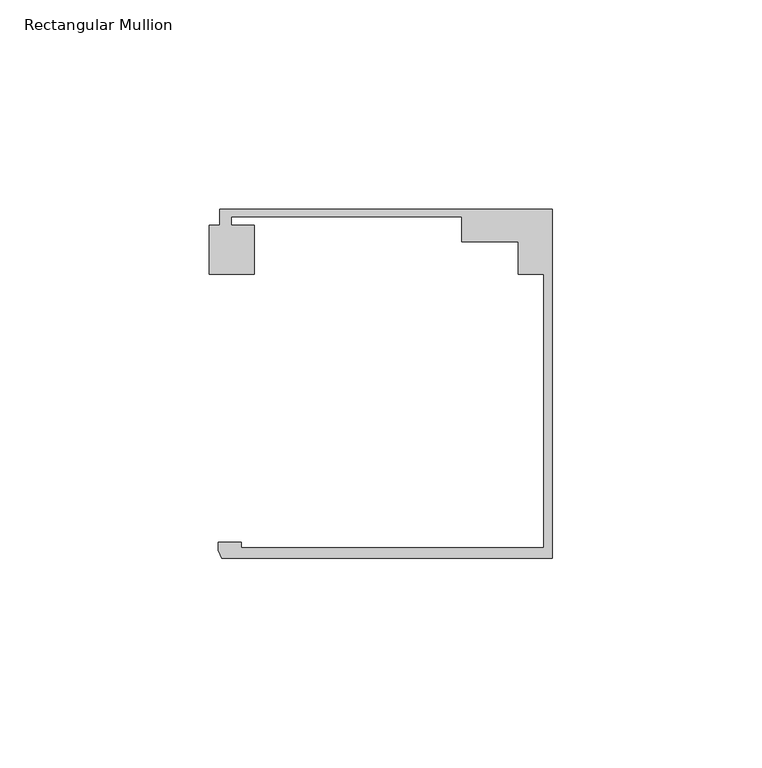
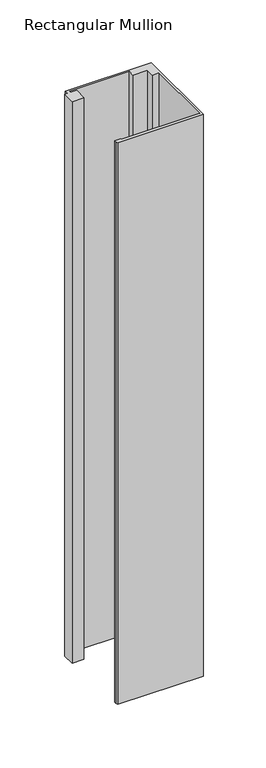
"""IFC4 building model written with IfcOpenShell, lengths in millimetres: member geometry, Rectangular Mullion : Danpal_Airpt_End-Mullion_B2."""

import ifcopenshell
import ifcopenshell.guid

model = None  # the IFC model being written
_history = None  # IfcOwnerHistory: only IFC2X3 demands one
_inside = {}  # id of a spatial element -> (the spatial element, [elements in it])
_under = {}  # id of a project, library or spatial element -> (it, [spatial elements below it])
_declared = {}  # id of a project -> (the project, [libraries it declares])
_typed = {}  # id of a type object -> (the type object, [elements of that type])
_made_of = {}  # id of a material, layer set ... -> (it, [elements and type objects made of it])


def new_model(schema):
    """Start an empty IFC model of exactly this schema.

    Asked for "IFC4X3", IfcOpenShell would pick the latest addendum, in which some entities
    have other attributes; the version numbers below select the first issue.
    IFC2X3 requires an IfcOwnerHistory on every rooted entity: one is made here for all.
    """
    global model, _history
    if schema == "IFC4X3":
        model = ifcopenshell.file(schema_version=(4, 3, 0, 0))
    else:
        model = ifcopenshell.file(schema=schema)
    _inside.clear()
    _under.clear()
    _declared.clear()
    _typed.clear()
    _made_of.clear()
    _history = None
    if model.schema == "IFC2X3":
        org = make("IfcOrganization", Name="unknown")
        user = make(
            "IfcPersonAndOrganization",
            ThePerson=make("IfcPerson", FamilyName="unknown"),
            TheOrganization=org,
        )
        app = make(
            "IfcApplication",
            ApplicationDeveloper=org,
            Version="unknown",
            ApplicationFullName="unknown",
            ApplicationIdentifier="unknown",
        )
        _history = make(
            "IfcOwnerHistory",
            OwningUser=user,
            OwningApplication=app,
            ChangeAction="ADDED",
            CreationDate=0,
        )
    return model


def make(cls, **values):
    """One entity of the class cls with the attributes given. An attribute that is None is left unset."""
    return model.create_entity(
        cls, **{name: value for name, value in values.items() if value is not None}
    )


def rooted(cls, **values):
    """An entity with a GlobalId (a new one), such as an element, a storey or a relation."""
    return make(cls, GlobalId=ifcopenshell.guid.new(), OwnerHistory=_history, **values)


def si_unit(unit_type, name, prefix=None):
    """IfcSIUnit, for example si_unit("LENGTHUNIT", "METRE", prefix="MILLI")."""
    return make("IfcSIUnit", UnitType=unit_type, Prefix=prefix, Name=name)


def assignment(units):
    """IfcUnitAssignment: the units of a project."""
    return None if units is None else make("IfcUnitAssignment", Units=units)


def point(xyz):
    """IfcCartesianPoint."""
    return None if xyz is None else make("IfcCartesianPoint", Coordinates=xyz)


def direction(xyz):
    """IfcDirection."""
    return None if xyz is None else make("IfcDirection", DirectionRatios=xyz)


def frame(location, z_axis=None, x_axis=None):
    """IfcAxis2Placement3D, a coordinate frame: its origin and axes. An axis left out is left unset."""
    return make(
        "IfcAxis2Placement3D",
        Location=point(location),
        Axis=direction(z_axis),
        RefDirection=direction(x_axis),
    )


def origin():
    """The frame at (0, 0, 0) with its axes left unset."""
    return frame((0.0, 0.0, 0.0))


def place(relative_to, where):
    """IfcLocalPlacement: puts the frame where relative to a parent placement (None: the world)."""
    return make(
        "IfcLocalPlacement", PlacementRelTo=relative_to, RelativePlacement=where
    )


def context(
    kind, dimensions, precision=None, world=None, true_north=None, identifier=None
):
    """IfcGeometricRepresentationContext, for example the 3D "Model" context."""
    return make(
        "IfcGeometricRepresentationContext",
        ContextIdentifier=identifier,
        ContextType=kind,
        CoordinateSpaceDimension=dimensions,
        Precision=precision,
        WorldCoordinateSystem=world,
        TrueNorth=true_north,
    )


def project(units=None, contexts=None):
    """IfcProject with its units and contexts."""
    return rooted(
        "IfcProject",
        Name="project",
        RepresentationContexts=contexts,
        UnitsInContext=assignment(units),
    )


def spatial(cls, under=None, at=None, **own):
    """A site, building, storey or space (cls), placed at a placement, below another one or the project."""
    s = rooted(cls, ObjectPlacement=at, **own)
    if under is not None:
        _under.setdefault(under.id(), (under, []))[1].append(s)
    return s


def polyline(points):
    """IfcPolyline through the points."""
    return make("IfcPolyline", Points=[point(p) for p in points])


def outline(outer, holes=None, kind="AREA"):
    """IfcArbitraryClosedProfileDef: a profile drawn as a closed curve; with holes, ...WithVoids."""
    if holes is None:
        return make("IfcArbitraryClosedProfileDef", ProfileType=kind, OuterCurve=outer)
    return make(
        "IfcArbitraryProfileDefWithVoids",
        ProfileType=kind,
        OuterCurve=outer,
        InnerCurves=holes,
    )


def extrude(swept, where, along, depth):
    """IfcExtrudedAreaSolid: the profile swept, set in the frame where, extruded along a direction by depth."""
    return make(
        "IfcExtrudedAreaSolid",
        SweptArea=swept,
        Position=where,
        ExtrudedDirection=direction(along),
        Depth=depth,
    )


def shape(context_of_items, identifier, shape_type, items):
    """IfcShapeRepresentation: the items that make up one representation, for example the "Body"."""
    return make(
        "IfcShapeRepresentation",
        ContextOfItems=context_of_items,
        RepresentationIdentifier=identifier,
        RepresentationType=shape_type,
        Items=items,
    )


def source(mapping_origin, context_of_items, identifier, shape_type, items):
    """IfcRepresentationMap: a shape defined once, which mapped items show again and again."""
    return make(
        "IfcRepresentationMap",
        MappingOrigin=mapping_origin,
        MappedRepresentation=shape(context_of_items, identifier, shape_type, items),
    )


def transform(
    local_origin,
    x_axis=None,
    y_axis=None,
    z_axis=None,
    scale=None,
    scale2=None,
    scale3=None,
    uniform=True,
):
    """IfcCartesianTransformationOperator3D, or its non-uniform kind. x_axis, y_axis, z_axis: its Axis1, 2, 3."""
    if uniform:
        return make(
            "IfcCartesianTransformationOperator3D",
            Axis1=direction(x_axis),
            Axis2=direction(y_axis),
            LocalOrigin=point(local_origin),
            Scale=scale,
            Axis3=direction(z_axis),
        )
    return make(
        "IfcCartesianTransformationOperator3DnonUniform",
        Axis1=direction(x_axis),
        Axis2=direction(y_axis),
        LocalOrigin=point(local_origin),
        Scale=scale,
        Axis3=direction(z_axis),
        Scale2=scale2,
        Scale3=scale3,
    )


def mapped(mapping_source, mapping_target):
    """IfcMappedItem: shows the shape of a source again, moved by a transform."""
    return make(
        "IfcMappedItem", MappingSource=mapping_source, MappingTarget=mapping_target
    )


def made_of(thing, what):
    """Note that an element or type object is made of a material, layer set ...; save() writes the relation."""
    if what is not None:
        _made_of.setdefault(what.id(), (what, []))[1].append(thing)
    return thing


def element(
    cls,
    number,
    at=None,
    inside=None,
    cuts=None,
    type_object=None,
    material=None,
    context=None,
    identifier="Body",
    shape_type=None,
    held_by="IfcProductDefinitionShape",
    body=None,
    shapes=None,
    **own,
):
    """One element of the class cls, such as IfcWall. Its Tag is "e" and its number.

    at: its placement. inside: the storey or other place that contains it. cuts: it is an
    opening in that element (IfcRelVoidsElement). A single representation is given by context,
    identifier, shape_type and body (its items); several are given by shapes. held_by: the class
    of the entity that holds the representations. save() writes the other relations.
    """
    e = rooted(cls, Tag="e%d" % number, ObjectPlacement=at, **own)
    if body is not None:
        shapes = [shape(context, identifier, shape_type, body)]
    if shapes is not None:
        e.Representation = make(held_by, Representations=shapes)
    if inside is not None:
        _inside.setdefault(inside.id(), (inside, []))[1].append(e)
    if cuts is not None:
        rooted(
            "IfcRelVoidsElement", RelatingBuildingElement=cuts, RelatedOpeningElement=e
        )
    if type_object is not None:
        _typed.setdefault(type_object.id(), (type_object, []))[1].append(e)
    return made_of(e, material)


def aggregate(whole, parts):
    """IfcRelAggregates: a whole, such as a stair, and the parts it consists of."""
    return rooted("IfcRelAggregates", RelatingObject=whole, RelatedObjects=parts)


def save(model, path):
    """Write the relations noted so far, then the file.

    IfcRelAggregates (storeys below a building ...), IfcRelContainedInSpatialStructure (elements
    in a storey), IfcRelDefinesByType, IfcRelAssociatesMaterial and IfcRelDeclares: one each for
    every whole, place, type object, material and project.
    """
    for whole, parts in _under.values():
        aggregate(whole, parts)
    for where, things in _inside.values():
        rooted(
            "IfcRelContainedInSpatialStructure",
            RelatedElements=things,
            RelatingStructure=where,
        )
    for kind, things in _typed.values():
        rooted("IfcRelDefinesByType", RelatedObjects=things, RelatingType=kind)
    for what, things in _made_of.values():
        rooted("IfcRelAssociatesMaterial", RelatedObjects=things, RelatingMaterial=what)
    for by, libraries in _declared.values():
        rooted("IfcRelDeclares", RelatingContext=by, RelatedDefinitions=libraries)
    model.write(path)


def rectangular_mullion_7cea1330(model_context):
    return source(origin(), model_context, "Body", "SweptSolid", [
        extrude(outline(polyline([(-2.0000001, -74.9940824), (-2.0000001, -9.7188964), (-8.1, -9.7188964), (-8.1, -1.8818054), (-21.5478166, -1.8818054), (-21.5478166, 4.0051512), (-76.6478166, 4.0051512), (-76.6478166, 2.0051513), (-71.1433532, 2.0051513), (-71.1433532, -9.6875514), (-81.8592324, -9.6875514), (-81.8592324, 2.0051513), (-79.3474874, 2.0051513), (-79.3474874, 5.8051514), (0.0, 5.8051514), (0.0, -77.4940825), (-78.8515009, -77.4940825), (-79.7784606, -75.5472671), (-79.7784606, -73.6940824), (-74.2474668, -73.6940824), (-74.2474668, -74.9940824), (-2.0000001, -74.9940824)])), frame((0.0, 0.0, -548.1991816), z_axis=(0.0, 0.0, 1.0), x_axis=(1.0, 0.0, 0.0)), (0.0, 0.0, 1.0), 548.1991816),
    ])


if __name__ == "__main__":
    model = new_model("IFC4")
    model_context = context("Model", 3, world=origin())
    ifc_project = project(units=[si_unit("LENGTHUNIT", "METRE", prefix="MILLI")], contexts=[model_context])
    site = spatial("IfcSite", under=ifc_project)
    building = spatial("IfcBuilding", under=site)
    placement = place(None, origin())
    rectangular_mullion_shape = rectangular_mullion_7cea1330(model_context)
    element("IfcMember", 1, ObjectType="Rectangular Mullion : Danpal_Airpt_End-Mullion_B2", at=placement, inside=building, context=model_context, shape_type="MappedRepresentation", body=[
        mapped(rectangular_mullion_shape, transform((0.0, 0.0, 0.0), x_axis=(1.0, 0.0, 0.0), y_axis=(0.0, 1.0, 0.0), z_axis=(0.0, 0.0, 1.0))),
    ])
    save(model, "model.ifc")
